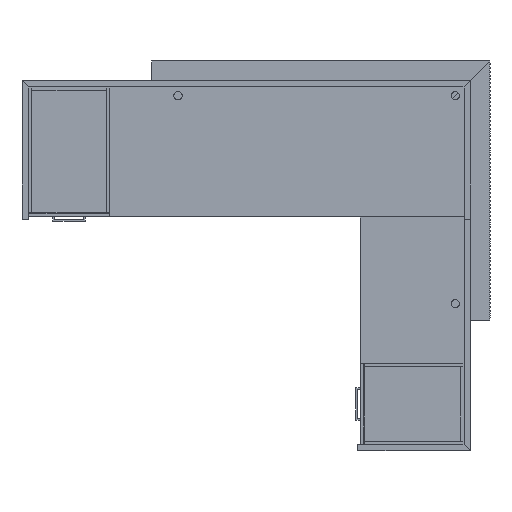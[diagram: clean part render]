
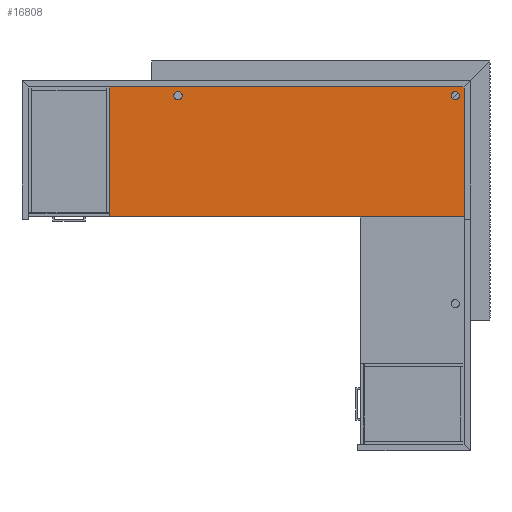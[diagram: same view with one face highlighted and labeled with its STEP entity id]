
A CAD part, front view. The second image highlights one B-rep face of the part: STEP entity #16808.
In plain terms, the highlighted planar face has unit normal (0, -1, 0).
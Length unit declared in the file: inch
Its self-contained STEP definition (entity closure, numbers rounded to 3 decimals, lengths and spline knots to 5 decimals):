
#485=FACE_BOUND('',#1899,.T.);
#486=FACE_BOUND('',#1900,.T.);
#490=CIRCLE('',#17943,0.95);
#492=CIRCLE('',#17946,0.95);
#1051=FACE_OUTER_BOUND('',#1898,.T.);
#1898=EDGE_LOOP('',(#11434,#11435,#11436,#11437,#11438,#11439));
#1899=EDGE_LOOP('',(#11440));
#1900=EDGE_LOOP('',(#11441));
#2782=LINE('',#23077,#5111);
#2783=LINE('',#23080,#5112);
#2788=LINE('',#23089,#5117);
#2790=LINE('',#23094,#5119);
#2795=LINE('',#23103,#5124);
#2796=LINE('',#23105,#5125);
#5111=VECTOR('',#18957,0.3937);
#5112=VECTOR('',#18960,0.3937);
#5117=VECTOR('',#18967,0.3937);
#5119=VECTOR('',#18971,0.3937);
#5124=VECTOR('',#18980,0.3937);
#5125=VECTOR('',#18983,0.3937);
#7412=VERTEX_POINT('',#23060);
#7414=VERTEX_POINT('',#23066);
#7415=VERTEX_POINT('',#23070);
#7418=VERTEX_POINT('',#23075);
#7419=VERTEX_POINT('',#23079);
#7422=VERTEX_POINT('',#23087);
#7424=VERTEX_POINT('',#23093);
#7426=VERTEX_POINT('',#23101);
#8993=EDGE_CURVE('',#7412,#7412,#490,.T.);
#8996=EDGE_CURVE('',#7414,#7414,#492,.T.);
#9000=EDGE_CURVE('',#7418,#7415,#2782,.T.);
#9001=EDGE_CURVE('',#7419,#7415,#2783,.T.);
#9006=EDGE_CURVE('',#7418,#7422,#2788,.T.);
#9008=EDGE_CURVE('',#7424,#7419,#2790,.T.);
#9013=EDGE_CURVE('',#7422,#7426,#2795,.T.);
#9014=EDGE_CURVE('',#7426,#7424,#2796,.T.);
#11434=ORIENTED_EDGE('',*,*,#9006,.T.);
#11435=ORIENTED_EDGE('',*,*,#9013,.T.);
#11436=ORIENTED_EDGE('',*,*,#9014,.T.);
#11437=ORIENTED_EDGE('',*,*,#9008,.T.);
#11438=ORIENTED_EDGE('',*,*,#9001,.T.);
#11439=ORIENTED_EDGE('',*,*,#9000,.F.);
#11440=ORIENTED_EDGE('',*,*,#8993,.T.);
#11441=ORIENTED_EDGE('',*,*,#8996,.T.);
#15964=PLANE('',#17953);
#16808=ADVANCED_FACE('',(#1051,#485,#486),#15964,.T.);
#17943=AXIS2_PLACEMENT_3D('',#23062,#18943,#18944);
#17946=AXIS2_PLACEMENT_3D('',#23068,#18950,#18951);
#17953=AXIS2_PLACEMENT_3D('',#23104,#18981,#18982);
#18943=DIRECTION('center_axis',(0.,1.,0.));
#18944=DIRECTION('ref_axis',(1.,0.,0.));
#18950=DIRECTION('center_axis',(0.,1.,0.));
#18951=DIRECTION('ref_axis',(1.,0.,0.));
#18957=DIRECTION('',(0.,0.,1.));
#18960=DIRECTION('',(-1.,0.,0.));
#18967=DIRECTION('',(-1.,0.,0.));
#18971=DIRECTION('',(0.,0.,1.));
#18980=DIRECTION('',(0.,0.,-1.));
#18981=DIRECTION('center_axis',(0.,-1.,0.));
#18982=DIRECTION('ref_axis',(-1.,0.,0.));
#18983=DIRECTION('',(1.,0.,0.));
#23060=CARTESIAN_POINT('',(99.05,27.5,-2.));
#23062=CARTESIAN_POINT('Origin',(100.,27.5,-2.));
#23066=CARTESIAN_POINT('',(35.05,27.5,-2.));
#23068=CARTESIAN_POINT('Origin',(36.,27.5,-2.));
#23070=CARTESIAN_POINT('',(30.,27.5,1.5));
#23075=CARTESIAN_POINT('',(30.,27.5,0.));
#23077=CARTESIAN_POINT('',(30.,27.5,0.));
#23079=CARTESIAN_POINT('',(103.5,27.5,1.5));
#23080=CARTESIAN_POINT('',(48.375,27.5,1.5));
#23087=CARTESIAN_POINT('',(1.5,27.5,0.));
#23089=CARTESIAN_POINT('',(102.,27.5,0.));
#23093=CARTESIAN_POINT('',(103.5,27.5,-30.));
#23094=CARTESIAN_POINT('',(103.5,27.5,-7.5));
#23101=CARTESIAN_POINT('',(1.5,27.5,-30.));
#23103=CARTESIAN_POINT('',(1.5,27.5,0.));
#23104=CARTESIAN_POINT('Origin',(102.,27.5,0.));
#23105=CARTESIAN_POINT('',(102.,27.5,-30.));
